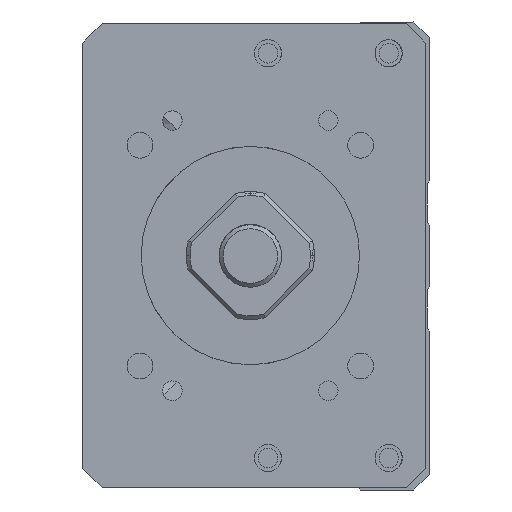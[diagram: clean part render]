
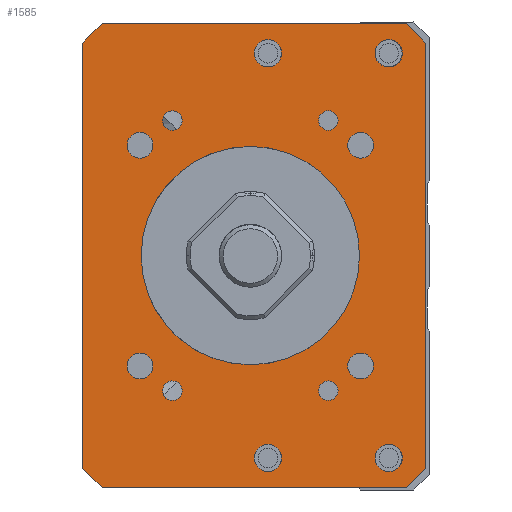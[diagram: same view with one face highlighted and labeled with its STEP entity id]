
A CAD part, left-side view. The second image highlights one B-rep face of the part: STEP entity #1585.
In plain terms, the highlighted planar face has unit normal (-1, 0, 0).
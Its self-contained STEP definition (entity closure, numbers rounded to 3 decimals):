
#571=FACE_BOUND('',#3094,.T.);
#572=FACE_BOUND('',#3095,.T.);
#573=FACE_BOUND('',#3096,.T.);
#574=FACE_BOUND('',#3097,.T.);
#575=FACE_BOUND('',#3098,.T.);
#576=FACE_BOUND('',#3099,.T.);
#577=FACE_BOUND('',#3100,.T.);
#578=FACE_BOUND('',#3101,.T.);
#579=FACE_BOUND('',#3102,.T.);
#580=FACE_BOUND('',#3103,.T.);
#581=FACE_BOUND('',#3104,.T.);
#582=FACE_BOUND('',#3105,.T.);
#583=FACE_BOUND('',#3106,.T.);
#584=FACE_BOUND('',#3107,.T.);
#1051=CIRCLE('',#10794,14.);
#1060=CIRCLE('',#10805,1.65);
#1061=CIRCLE('',#10806,1.65);
#1062=CIRCLE('',#10807,1.65);
#1063=CIRCLE('',#10808,1.65);
#1064=CIRCLE('',#10809,1.25);
#1065=CIRCLE('',#10810,1.75);
#1066=CIRCLE('',#10811,1.25);
#1067=CIRCLE('',#10812,1.75);
#1068=CIRCLE('',#10813,1.25);
#1069=CIRCLE('',#10814,1.75);
#1070=CIRCLE('',#10815,1.75);
#1071=CIRCLE('',#10816,1.25);
#1585=ADVANCED_FACE('',(#571,#572,#573,#574,#575,#576,#577,#578,#579,#580,
#581,#582,#583,#584),#2084,.F.);
#2084=PLANE('',#10817);
#3094=EDGE_LOOP('',(#5113));
#3095=EDGE_LOOP('',(#5114));
#3096=EDGE_LOOP('',(#5115));
#3097=EDGE_LOOP('',(#5116));
#3098=EDGE_LOOP('',(#5117));
#3099=EDGE_LOOP('',(#5118));
#3100=EDGE_LOOP('',(#5119));
#3101=EDGE_LOOP('',(#5120));
#3102=EDGE_LOOP('',(#5121));
#3103=EDGE_LOOP('',(#5122,#5123,#5124,#5125,#5126,#5127,#5128,#5129));
#3104=EDGE_LOOP('',(#5130));
#3105=EDGE_LOOP('',(#5131));
#3106=EDGE_LOOP('',(#5132));
#3107=EDGE_LOOP('',(#5133));
#5113=ORIENTED_EDGE('',*,*,#8018,.F.);
#5114=ORIENTED_EDGE('',*,*,#8019,.F.);
#5115=ORIENTED_EDGE('',*,*,#8020,.F.);
#5116=ORIENTED_EDGE('',*,*,#8021,.F.);
#5117=ORIENTED_EDGE('',*,*,#8022,.F.);
#5118=ORIENTED_EDGE('',*,*,#8023,.T.);
#5119=ORIENTED_EDGE('',*,*,#8024,.F.);
#5120=ORIENTED_EDGE('',*,*,#8025,.F.);
#5121=ORIENTED_EDGE('',*,*,#8026,.F.);
#5122=ORIENTED_EDGE('',*,*,#8015,.T.);
#5123=ORIENTED_EDGE('',*,*,#8027,.T.);
#5124=ORIENTED_EDGE('',*,*,#8028,.F.);
#5125=ORIENTED_EDGE('',*,*,#8029,.T.);
#5126=ORIENTED_EDGE('',*,*,#8030,.F.);
#5127=ORIENTED_EDGE('',*,*,#8031,.T.);
#5128=ORIENTED_EDGE('',*,*,#8032,.T.);
#5129=ORIENTED_EDGE('',*,*,#8033,.T.);
#5130=ORIENTED_EDGE('',*,*,#8034,.F.);
#5131=ORIENTED_EDGE('',*,*,#8035,.F.);
#5132=ORIENTED_EDGE('',*,*,#8036,.F.);
#5133=ORIENTED_EDGE('',*,*,#7995,.F.);
#6801=VERTEX_POINT('',#15899);
#6821=VERTEX_POINT('',#15975);
#6822=VERTEX_POINT('',#15977);
#6824=VERTEX_POINT('',#15983);
#6825=VERTEX_POINT('',#15985);
#6826=VERTEX_POINT('',#15987);
#6827=VERTEX_POINT('',#15989);
#6828=VERTEX_POINT('',#15991);
#6829=VERTEX_POINT('',#15993);
#6830=VERTEX_POINT('',#15995);
#6831=VERTEX_POINT('',#15997);
#6832=VERTEX_POINT('',#15999);
#6833=VERTEX_POINT('',#16001);
#6834=VERTEX_POINT('',#16003);
#6835=VERTEX_POINT('',#16005);
#6836=VERTEX_POINT('',#16007);
#6837=VERTEX_POINT('',#16009);
#6838=VERTEX_POINT('',#16011);
#6839=VERTEX_POINT('',#16014);
#6840=VERTEX_POINT('',#16016);
#6841=VERTEX_POINT('',#16018);
#7995=EDGE_CURVE('',#6801,#6801,#1051,.T.);
#8015=EDGE_CURVE('',#6822,#6821,#9158,.T.);
#8018=EDGE_CURVE('',#6824,#6824,#1060,.T.);
#8019=EDGE_CURVE('',#6825,#6825,#1061,.T.);
#8020=EDGE_CURVE('',#6826,#6826,#1062,.T.);
#8021=EDGE_CURVE('',#6827,#6827,#1063,.T.);
#8022=EDGE_CURVE('',#6828,#6828,#1064,.T.);
#8023=EDGE_CURVE('',#6829,#6829,#1065,.T.);
#8024=EDGE_CURVE('',#6830,#6830,#1066,.T.);
#8025=EDGE_CURVE('',#6831,#6831,#1067,.T.);
#8026=EDGE_CURVE('',#6832,#6832,#1068,.T.);
#8027=EDGE_CURVE('',#6821,#6833,#9160,.T.);
#8028=EDGE_CURVE('',#6834,#6833,#9161,.T.);
#8029=EDGE_CURVE('',#6834,#6835,#9162,.T.);
#8030=EDGE_CURVE('',#6836,#6835,#9163,.T.);
#8031=EDGE_CURVE('',#6836,#6837,#9164,.T.);
#8032=EDGE_CURVE('',#6837,#6838,#9165,.T.);
#8033=EDGE_CURVE('',#6838,#6822,#9166,.T.);
#8034=EDGE_CURVE('',#6839,#6839,#1069,.T.);
#8035=EDGE_CURVE('',#6840,#6840,#1070,.T.);
#8036=EDGE_CURVE('',#6841,#6841,#1071,.T.);
#9158=LINE('',#15976,#10000);
#9160=LINE('',#16000,#10002);
#9161=LINE('',#16002,#10003);
#9162=LINE('',#16004,#10004);
#9163=LINE('',#16006,#10005);
#9164=LINE('',#16008,#10006);
#9165=LINE('',#16010,#10007);
#9166=LINE('',#16012,#10008);
#10000=VECTOR('',#12927,1.);
#10002=VECTOR('',#12951,1.);
#10003=VECTOR('',#12952,1.);
#10004=VECTOR('',#12953,1.);
#10005=VECTOR('',#12954,1.);
#10006=VECTOR('',#12955,1.);
#10007=VECTOR('',#12956,1.);
#10008=VECTOR('',#12957,1.);
#10794=AXIS2_PLACEMENT_3D('',#15898,#12901,#12902);
#10805=AXIS2_PLACEMENT_3D('',#15982,#12933,#12934);
#10806=AXIS2_PLACEMENT_3D('',#15984,#12935,#12936);
#10807=AXIS2_PLACEMENT_3D('',#15986,#12937,#12938);
#10808=AXIS2_PLACEMENT_3D('',#15988,#12939,#12940);
#10809=AXIS2_PLACEMENT_3D('',#15990,#12941,#12942);
#10810=AXIS2_PLACEMENT_3D('',#15992,#12943,#12944);
#10811=AXIS2_PLACEMENT_3D('',#15994,#12945,#12946);
#10812=AXIS2_PLACEMENT_3D('',#15996,#12947,#12948);
#10813=AXIS2_PLACEMENT_3D('',#15998,#12949,#12950);
#10814=AXIS2_PLACEMENT_3D('',#16013,#12958,#12959);
#10815=AXIS2_PLACEMENT_3D('',#16015,#12960,#12961);
#10816=AXIS2_PLACEMENT_3D('',#16017,#12962,#12963);
#10817=AXIS2_PLACEMENT_3D('',#16019,#12964,#12965);
#12901=DIRECTION('',(-1.,0.,0.));
#12902=DIRECTION('',(0.,1.,0.));
#12927=DIRECTION('',(0.,0.,-1.));
#12933=DIRECTION('',(-1.,0.,0.));
#12934=DIRECTION('',(0.,0.,1.));
#12935=DIRECTION('',(-1.,0.,0.));
#12936=DIRECTION('',(0.,0.,1.));
#12937=DIRECTION('',(-1.,0.,0.));
#12938=DIRECTION('',(0.,0.,1.));
#12939=DIRECTION('',(-1.,0.,0.));
#12940=DIRECTION('',(0.,0.,1.));
#12941=DIRECTION('',(-1.,0.,0.));
#12942=DIRECTION('',(0.,1.,0.));
#12943=DIRECTION('',(1.,0.,0.));
#12944=DIRECTION('',(0.,0.,1.));
#12945=DIRECTION('',(-1.,0.,0.));
#12946=DIRECTION('',(0.,1.,0.));
#12947=DIRECTION('',(-1.,0.,0.));
#12948=DIRECTION('',(0.,0.,1.));
#12949=DIRECTION('',(-1.,0.,0.));
#12950=DIRECTION('',(0.,1.,0.));
#12951=DIRECTION('',(0.,-0.707,-0.707));
#12952=DIRECTION('',(0.,1.,0.));
#12953=DIRECTION('',(0.,-0.707,0.707));
#12954=DIRECTION('',(0.,0.,-1.));
#12955=DIRECTION('',(0.,0.707,0.707));
#12956=DIRECTION('',(0.,1.,0.));
#12957=DIRECTION('',(0.,0.707,-0.707));
#12958=DIRECTION('',(-1.,0.,0.));
#12959=DIRECTION('',(0.,0.,1.));
#12960=DIRECTION('',(-1.,0.,0.));
#12961=DIRECTION('',(0.,0.,1.));
#12962=DIRECTION('',(-1.,0.,0.));
#12963=DIRECTION('',(0.,1.,0.));
#12964=DIRECTION('',(1.,0.,0.));
#12965=DIRECTION('',(0.,1.,0.));
#15898=CARTESIAN_POINT('',(-211.,0.,-400.));
#15899=CARTESIAN_POINT('',(-211.,14.,-400.));
#15975=CARTESIAN_POINT('',(-211.,21.499,-427.25));
#15976=CARTESIAN_POINT('',(-211.,21.499,-370.25));
#15977=CARTESIAN_POINT('',(-211.,21.499,-372.75));
#15982=CARTESIAN_POINT('',(-211.,14.142,-385.858));
#15983=CARTESIAN_POINT('',(-211.,14.142,-384.208));
#15984=CARTESIAN_POINT('',(-211.,-14.142,-385.858));
#15985=CARTESIAN_POINT('',(-211.,-14.142,-384.208));
#15986=CARTESIAN_POINT('',(-211.,14.142,-414.142));
#15987=CARTESIAN_POINT('',(-211.,14.142,-412.492));
#15988=CARTESIAN_POINT('',(-211.,-14.142,-414.142));
#15989=CARTESIAN_POINT('',(-211.,-14.142,-412.492));
#15990=CARTESIAN_POINT('',(-211.,-10.,-417.321));
#15991=CARTESIAN_POINT('',(-211.,-8.75,-417.321));
#15992=CARTESIAN_POINT('',(-211.,-2.25,-425.936));
#15993=CARTESIAN_POINT('',(-211.,-2.25,-424.186));
#15994=CARTESIAN_POINT('',(-211.,10.,-382.679));
#15995=CARTESIAN_POINT('',(-211.,11.25,-382.679));
#15996=CARTESIAN_POINT('',(-211.,-2.25,-374.064));
#15997=CARTESIAN_POINT('',(-211.,-2.25,-372.314));
#15998=CARTESIAN_POINT('',(-211.,10.,-417.321));
#15999=CARTESIAN_POINT('',(-211.,11.25,-417.321));
#16000=CARTESIAN_POINT('',(-211.,18.999,-429.75));
#16001=CARTESIAN_POINT('',(-211.,18.999,-429.75));
#16002=CARTESIAN_POINT('',(-211.,-22.501,-429.75));
#16003=CARTESIAN_POINT('',(-211.,-20.001,-429.75));
#16004=CARTESIAN_POINT('',(-211.,-22.501,-427.25));
#16005=CARTESIAN_POINT('',(-211.,-22.501,-427.25));
#16006=CARTESIAN_POINT('',(-211.,-22.501,-370.25));
#16007=CARTESIAN_POINT('',(-211.,-22.501,-372.75));
#16008=CARTESIAN_POINT('',(-211.,-22.501,-372.75));
#16009=CARTESIAN_POINT('',(-211.,-20.001,-370.25));
#16010=CARTESIAN_POINT('',(-211.,-22.501,-370.25));
#16011=CARTESIAN_POINT('',(-211.,18.999,-370.25));
#16012=CARTESIAN_POINT('',(-211.,18.999,-370.25));
#16013=CARTESIAN_POINT('',(-211.,-17.75,-374.064));
#16014=CARTESIAN_POINT('',(-211.,-17.75,-372.314));
#16015=CARTESIAN_POINT('',(-211.,-17.75,-425.936));
#16016=CARTESIAN_POINT('',(-211.,-17.75,-424.186));
#16017=CARTESIAN_POINT('',(-211.,-10.,-382.679));
#16018=CARTESIAN_POINT('',(-211.,-8.75,-382.679));
#16019=CARTESIAN_POINT('',(-211.,-22.501,-370.25));
